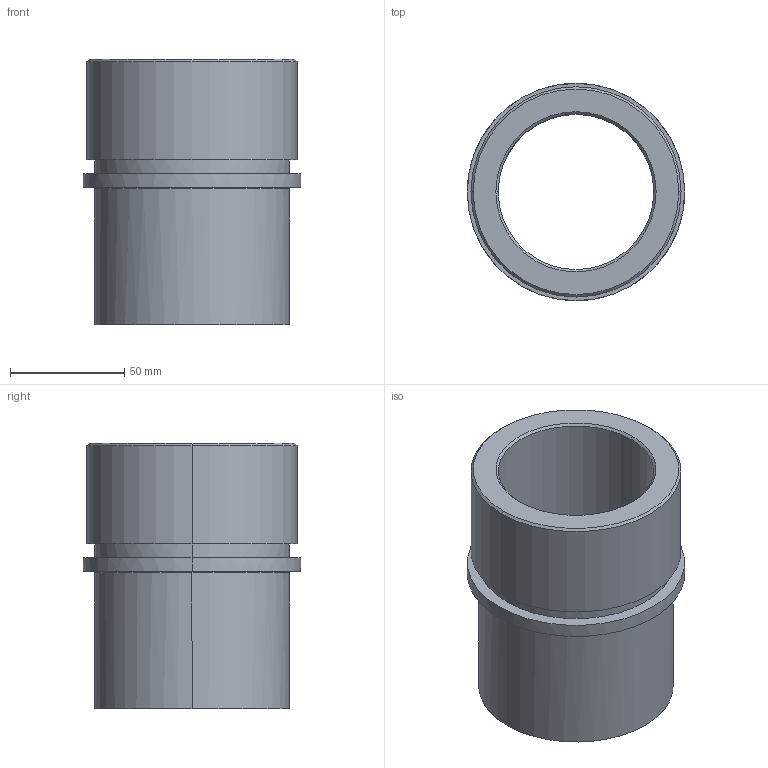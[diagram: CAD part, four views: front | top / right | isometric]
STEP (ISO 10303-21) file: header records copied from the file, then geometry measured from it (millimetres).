
FILE_DESCRIPTION(('CATIA V5 STEP Exchange'),'2;1');
FILE_NAME('C:\Users\Utente\Desktop\IO LAVORO\3D X SITO CF\X SITO\735\735-60.stp','2021-01-16T19:17:42+00:00',('none'),('none'),'CATIA Version 5 Release 20 GA (IN-10)','CATIA V5 STEP AP203','none');
FILE_SCHEMA(('CONFIG_CONTROL_DESIGN'));
Length unit declared in the file: millimetre
Products named in the file (1): 735-60
Assembly tree (1 placements, depth 2):
  735-60
    #58
Bounding box: 95 x 95 x 116 mm (x, y, z)
Volume: 286410.9 mm3; surface area: 65700.3 mm2
Topology: 1 solids, 1 shells, 25 faces, 50 edges, 30 vertices
Faces by surface type: cylinder 10, cone 6, plane 5, torus 4
Entity records: 851 total; most frequent: CARTESIAN_POINT 282, ORIENTED_EDGE 100, DIRECTION 96, AXIS2_PLACEMENT_3D 53, EDGE_CURVE 50, EDGE_LOOP 30, VERTEX_POINT 30, CIRCLE 26
